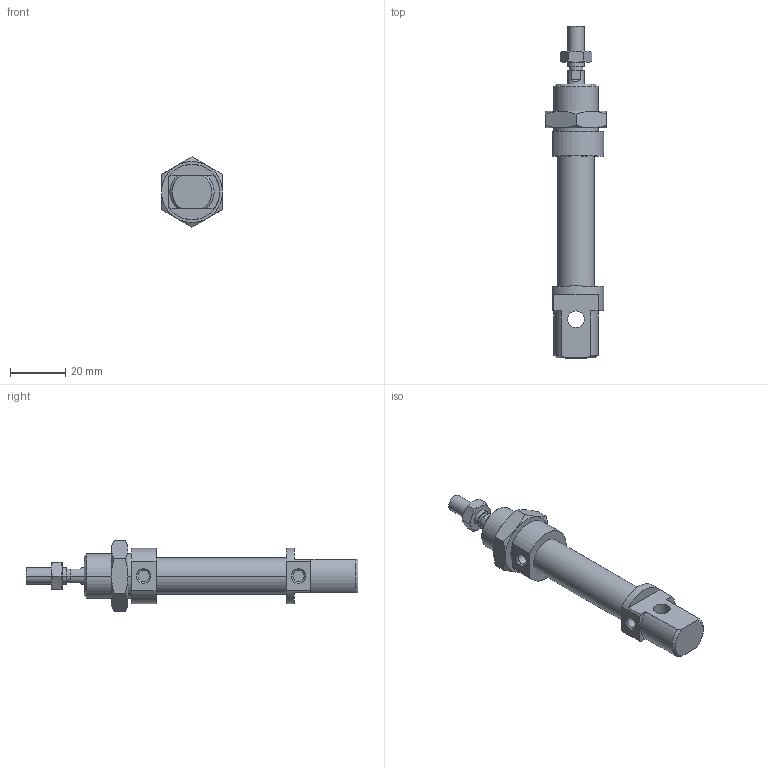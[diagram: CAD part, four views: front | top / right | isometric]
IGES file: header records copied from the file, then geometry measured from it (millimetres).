
Global section: file name: No Iges File Name specified; native system: Autodesk Inventor 2010; preprocessor: AutoDesk Inventor Iges Exporter R2010; author: rivolro1; date: 20090604.093134; units: millimetre
Bounding box: 22 x 120 x 25.4 mm (x, y, z)
Volume: 19484.1 mm3; surface area: 9392.8 mm2
Topology: 4 solids, 4 shells, 107 faces, 236 edges, 144 vertices
Faces by surface type: plane 39, cone 28, bspline 20, cylinder 14, revolution 6
